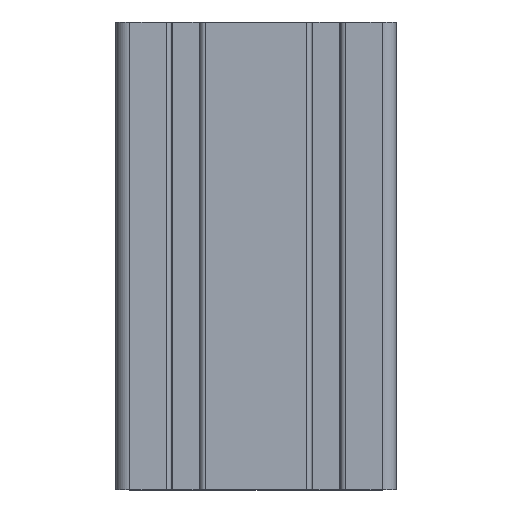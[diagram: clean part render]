
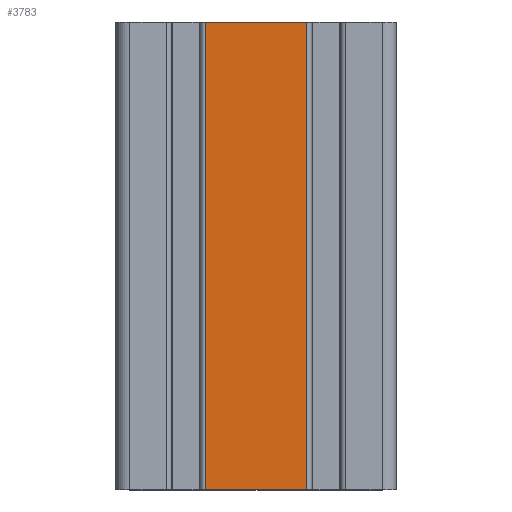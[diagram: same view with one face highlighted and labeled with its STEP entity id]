
A CAD part, top view. The second image highlights one B-rep face of the part: STEP entity #3783.
In plain terms, the highlighted planar face has unit normal (0, 0, 1).
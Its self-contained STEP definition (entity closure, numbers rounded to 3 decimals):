
#49 = VERTEX_POINT ( 'NONE', #2858 ) ;
#68 = VERTEX_POINT ( 'NONE', #2281 ) ;
#88 = ORIENTED_EDGE ( 'NONE', *, *, #145, .T. ) ;
#121 = EDGE_LOOP ( 'NONE', ( #6111, #4095, #6844, #88 ) ) ;
#145 = EDGE_CURVE ( 'NONE', #8029, #68, #6120, .T. ) ;
#151 = EDGE_CURVE ( 'NONE', #8029, #49, #6658, .T. ) ;
#292 = DIRECTION ( 'NONE',  ( 0., 0., -1. ) ) ;
#507 = DIRECTION ( 'NONE',  ( 1., 0., 0. ) ) ;
#769 = LINE ( 'NONE', #6998, #1718 ) ;
#1315 = VECTOR ( 'NONE', #507, 1000. ) ;
#1339 = DIRECTION ( 'NONE',  ( 1., 0., 0. ) ) ;
#1718 = VECTOR ( 'NONE', #1339, 1000. ) ;
#2054 = PLANE ( 'NONE',  #5191 ) ;
#2095 = CARTESIAN_POINT ( 'NONE',  ( 10.9, 50., 15. ) ) ;
#2236 = VECTOR ( 'NONE', #4921, 1000. ) ;
#2281 = CARTESIAN_POINT ( 'NONE',  ( -10.9, -50., 15. ) ) ;
#2858 = CARTESIAN_POINT ( 'NONE',  ( 10.9, 50., 15. ) ) ;
#3665 = EDGE_CURVE ( 'NONE', #49, #7196, #7806, .T. ) ;
#3689 = CARTESIAN_POINT ( 'NONE',  ( 10.9, -50., 15. ) ) ;
#3783 = ADVANCED_FACE ( 'NONE', ( #7190 ), #2054, .F. ) ;
#4095 = ORIENTED_EDGE ( 'NONE', *, *, #3665, .F. ) ;
#4579 = CARTESIAN_POINT ( 'NONE',  ( -10.9, 50., 15. ) ) ;
#4921 = DIRECTION ( 'NONE',  ( 0., -1., 0. ) ) ;
#5191 = AXIS2_PLACEMENT_3D ( 'NONE', #4579, #292, #7102 ) ;
#5330 = DIRECTION ( 'NONE',  ( 0., -1., 0. ) ) ;
#6075 = CARTESIAN_POINT ( 'NONE',  ( -10.9, 50., 15. ) ) ;
#6111 = ORIENTED_EDGE ( 'NONE', *, *, #7261, .T. ) ;
#6120 = LINE ( 'NONE', #6075, #2236 ) ;
#6582 = CARTESIAN_POINT ( 'NONE',  ( -10.9, 50., 15. ) ) ;
#6658 = LINE ( 'NONE', #7287, #1315 ) ;
#6844 = ORIENTED_EDGE ( 'NONE', *, *, #151, .F. ) ;
#6866 = VECTOR ( 'NONE', #5330, 1000. ) ;
#6998 = CARTESIAN_POINT ( 'NONE',  ( -10.9, -50., 15. ) ) ;
#7102 = DIRECTION ( 'NONE',  ( -1., 0., 0. ) ) ;
#7190 = FACE_OUTER_BOUND ( 'NONE', #121, .T. ) ;
#7196 = VERTEX_POINT ( 'NONE', #3689 ) ;
#7261 = EDGE_CURVE ( 'NONE', #68, #7196, #769, .T. ) ;
#7287 = CARTESIAN_POINT ( 'NONE',  ( -10.9, 50., 15. ) ) ;
#7806 = LINE ( 'NONE', #2095, #6866 ) ;
#8029 = VERTEX_POINT ( 'NONE', #6582 ) ;
